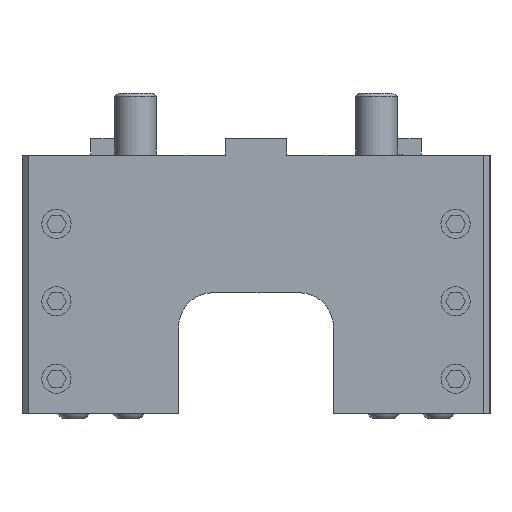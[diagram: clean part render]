
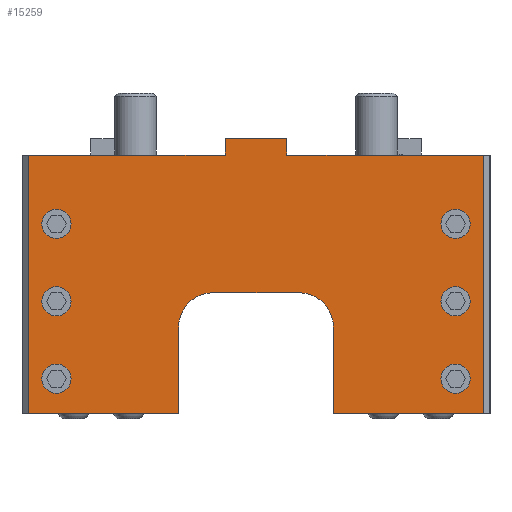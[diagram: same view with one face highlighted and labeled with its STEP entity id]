
A CAD part, front view. The second image highlights one B-rep face of the part: STEP entity #15259.
In plain terms, the highlighted planar face has unit normal (0, -1, 0).
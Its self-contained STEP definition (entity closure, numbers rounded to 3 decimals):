
#6793=CIRCLE('',#14521,4.25);
#6794=CIRCLE('',#14522,4.25);
#6795=CIRCLE('',#14523,4.25);
#6796=CIRCLE('',#14524,4.25);
#6797=CIRCLE('',#14525,4.25);
#6798=CIRCLE('',#14526,10.);
#6799=CIRCLE('',#14527,10.);
#6800=CIRCLE('',#14528,4.25);
#7272=ORIENTED_EDGE('',*,*,#9895,.F.);
#7273=ORIENTED_EDGE('',*,*,#9896,.F.);
#7274=ORIENTED_EDGE('',*,*,#9897,.F.);
#7275=ORIENTED_EDGE('',*,*,#9898,.F.);
#7276=ORIENTED_EDGE('',*,*,#9899,.F.);
#7277=ORIENTED_EDGE('',*,*,#9900,.T.);
#7278=ORIENTED_EDGE('',*,*,#9901,.F.);
#7279=ORIENTED_EDGE('',*,*,#9902,.T.);
#7280=ORIENTED_EDGE('',*,*,#9903,.F.);
#7281=ORIENTED_EDGE('',*,*,#9904,.F.);
#7282=ORIENTED_EDGE('',*,*,#9905,.F.);
#7283=ORIENTED_EDGE('',*,*,#9906,.F.);
#7284=ORIENTED_EDGE('',*,*,#9907,.F.);
#7285=ORIENTED_EDGE('',*,*,#9865,.T.);
#7286=ORIENTED_EDGE('',*,*,#9894,.T.);
#7287=ORIENTED_EDGE('',*,*,#9889,.T.);
#7288=ORIENTED_EDGE('',*,*,#9908,.T.);
#7289=ORIENTED_EDGE('',*,*,#9909,.F.);
#7290=ORIENTED_EDGE('',*,*,#9910,.F.);
#7291=ORIENTED_EDGE('',*,*,#9911,.F.);
#8396=VECTOR('',#11686,1.);
#8405=VECTOR('',#11745,1.);
#8408=VECTOR('',#11756,1.);
#8409=VECTOR('',#11769,1.);
#8410=VECTOR('',#11770,1.);
#8411=VECTOR('',#11771,1.);
#8412=VECTOR('',#11772,1.);
#8413=VECTOR('',#11775,1.);
#8414=VECTOR('',#11778,1.);
#8415=VECTOR('',#11779,1.);
#8416=VECTOR('',#11780,1.);
#8417=VECTOR('',#11781,1.);
#8878=LINE('',#13260,#8396);
#8887=LINE('',#13316,#8405);
#8890=LINE('',#13325,#8408);
#8891=LINE('',#13339,#8409);
#8892=LINE('',#13341,#8410);
#8893=LINE('',#13343,#8411);
#8894=LINE('',#13345,#8412);
#8895=LINE('',#13349,#8413);
#8896=LINE('',#13352,#8414);
#8897=LINE('',#13354,#8415);
#8898=LINE('',#13356,#8416);
#8899=LINE('',#13357,#8417);
#9344=VERTEX_POINT('',#13257);
#9345=VERTEX_POINT('',#13259);
#9366=VERTEX_POINT('',#13313);
#9367=VERTEX_POINT('',#13315);
#9370=VERTEX_POINT('',#13327);
#9371=VERTEX_POINT('',#13329);
#9372=VERTEX_POINT('',#13331);
#9373=VERTEX_POINT('',#13333);
#9374=VERTEX_POINT('',#13335);
#9375=VERTEX_POINT('',#13337);
#9376=VERTEX_POINT('',#13338);
#9377=VERTEX_POINT('',#13340);
#9378=VERTEX_POINT('',#13342);
#9379=VERTEX_POINT('',#13344);
#9380=VERTEX_POINT('',#13346);
#9381=VERTEX_POINT('',#13348);
#9382=VERTEX_POINT('',#13350);
#9383=VERTEX_POINT('',#13353);
#9384=VERTEX_POINT('',#13355);
#9385=VERTEX_POINT('',#13358);
#9865=EDGE_CURVE('',#9345,#9344,#8878,.T.);
#9889=EDGE_CURVE('',#9367,#9366,#8887,.T.);
#9894=EDGE_CURVE('',#9344,#9367,#8890,.T.);
#9895=EDGE_CURVE('',#9370,#9370,#6793,.T.);
#9896=EDGE_CURVE('',#9371,#9371,#6794,.T.);
#9897=EDGE_CURVE('',#9372,#9372,#6795,.T.);
#9898=EDGE_CURVE('',#9373,#9373,#6796,.T.);
#9899=EDGE_CURVE('',#9374,#9374,#6797,.T.);
#9900=EDGE_CURVE('',#9375,#9376,#8891,.T.);
#9901=EDGE_CURVE('',#9377,#9376,#8892,.T.);
#9902=EDGE_CURVE('',#9377,#9378,#8893,.T.);
#9903=EDGE_CURVE('',#9379,#9378,#8894,.T.);
#9904=EDGE_CURVE('',#9380,#9379,#6798,.T.);
#9905=EDGE_CURVE('',#9381,#9380,#8895,.T.);
#9906=EDGE_CURVE('',#9382,#9381,#6799,.T.);
#9907=EDGE_CURVE('',#9345,#9382,#8896,.T.);
#9908=EDGE_CURVE('',#9366,#9383,#8897,.T.);
#9909=EDGE_CURVE('',#9384,#9383,#8898,.T.);
#9910=EDGE_CURVE('',#9375,#9384,#8899,.T.);
#9911=EDGE_CURVE('',#9385,#9385,#6800,.T.);
#10484=EDGE_LOOP('',(#7272));
#10485=EDGE_LOOP('',(#7273));
#10486=EDGE_LOOP('',(#7274));
#10487=EDGE_LOOP('',(#7275));
#10488=EDGE_LOOP('',(#7276));
#10489=EDGE_LOOP('',(#7277,#7278,#7279,#7280,#7281,#7282,#7283,#7284,#7285,
#7286,#7287,#7288,#7289,#7290));
#10490=EDGE_LOOP('',(#7291));
#10986=FACE_BOUND('',#10484,.T.);
#10987=FACE_BOUND('',#10485,.T.);
#10988=FACE_BOUND('',#10486,.T.);
#10989=FACE_BOUND('',#10487,.T.);
#10990=FACE_BOUND('',#10488,.T.);
#10991=FACE_BOUND('',#10489,.T.);
#10992=FACE_BOUND('',#10490,.T.);
#11686=DIRECTION('',(43.5,0.,0.));
#11745=DIRECTION('',(-57.,0.,0.));
#11756=DIRECTION('',(0.,0.,75.));
#11757=DIRECTION('',(0.,-1.,0.));
#11758=DIRECTION('',(-1.,0.,0.));
#11759=DIRECTION('',(0.,-1.,0.));
#11760=DIRECTION('',(4.25,0.,0.));
#11761=DIRECTION('',(0.,-1.,0.));
#11762=DIRECTION('',(4.25,0.,0.));
#11763=DIRECTION('',(0.,-1.,0.));
#11764=DIRECTION('',(4.25,0.,0.));
#11765=DIRECTION('',(0.,-1.,0.));
#11766=DIRECTION('',(4.25,0.,0.));
#11767=DIRECTION('',(0.,-1.,0.));
#11768=DIRECTION('',(4.25,0.,0.));
#11769=DIRECTION('',(-57.,0.,0.));
#11770=DIRECTION('',(0.,0.,75.));
#11771=DIRECTION('',(43.5,0.,0.));
#11772=DIRECTION('',(0.,0.,-25.));
#11773=DIRECTION('',(0.,-1.,0.));
#11774=DIRECTION('',(0.,0.,10.));
#11775=DIRECTION('',(-25.,0.,0.));
#11776=DIRECTION('',(0.,-1.,0.));
#11777=DIRECTION('',(0.,0.,10.));
#11778=DIRECTION('',(0.,0.,25.));
#11779=DIRECTION('',(0.,0.,4.75));
#11780=DIRECTION('',(18.,0.,0.));
#11781=DIRECTION('',(0.,0.,4.75));
#11782=DIRECTION('',(0.,-1.,0.));
#11783=DIRECTION('',(4.25,0.,0.));
#13257=CARTESIAN_POINT('',(66.,-48.,-64.));
#13259=CARTESIAN_POINT('',(22.5,-48.,-64.));
#13260=CARTESIAN_POINT('',(22.5,-48.,-64.));
#13313=CARTESIAN_POINT('',(9.,-48.,11.));
#13315=CARTESIAN_POINT('',(66.,-48.,11.));
#13316=CARTESIAN_POINT('',(66.,-48.,11.));
#13325=CARTESIAN_POINT('',(66.,-48.,-64.));
#13326=CARTESIAN_POINT('',(58.,-48.,-36.5));
#13327=CARTESIAN_POINT('',(62.25,-48.,-31.5));
#13328=CARTESIAN_POINT('',(58.,-48.,-31.5));
#13329=CARTESIAN_POINT('',(-53.75,-48.,-9.));
#13330=CARTESIAN_POINT('',(-58.,-48.,-9.));
#13331=CARTESIAN_POINT('',(-53.75,-48.,-31.5));
#13332=CARTESIAN_POINT('',(-58.,-48.,-31.5));
#13333=CARTESIAN_POINT('',(62.25,-48.,-54.));
#13334=CARTESIAN_POINT('',(58.,-48.,-54.));
#13335=CARTESIAN_POINT('',(-53.75,-48.,-54.));
#13336=CARTESIAN_POINT('',(-58.,-48.,-54.));
#13337=CARTESIAN_POINT('',(-9.,-48.,11.));
#13338=CARTESIAN_POINT('',(-66.,-48.,11.));
#13339=CARTESIAN_POINT('',(-9.,-48.,11.));
#13340=CARTESIAN_POINT('',(-66.,-48.,-64.));
#13341=CARTESIAN_POINT('',(-66.,-48.,-64.));
#13342=CARTESIAN_POINT('',(-22.5,-48.,-64.));
#13343=CARTESIAN_POINT('',(-66.,-48.,-64.));
#13344=CARTESIAN_POINT('',(-22.5,-48.,-39.));
#13345=CARTESIAN_POINT('',(-22.5,-48.,-39.));
#13346=CARTESIAN_POINT('',(-12.5,-48.,-29.));
#13347=CARTESIAN_POINT('',(-12.5,-48.,-39.));
#13348=CARTESIAN_POINT('',(12.5,-48.,-29.));
#13349=CARTESIAN_POINT('',(12.5,-48.,-29.));
#13350=CARTESIAN_POINT('',(22.5,-48.,-39.));
#13351=CARTESIAN_POINT('',(12.5,-48.,-39.));
#13352=CARTESIAN_POINT('',(22.5,-48.,-64.));
#13353=CARTESIAN_POINT('',(9.,-48.,15.75));
#13354=CARTESIAN_POINT('',(9.,-48.,11.));
#13355=CARTESIAN_POINT('',(-9.,-48.,15.75));
#13356=CARTESIAN_POINT('',(-9.,-48.,15.75));
#13357=CARTESIAN_POINT('',(-9.,-48.,11.));
#13358=CARTESIAN_POINT('',(62.25,-48.,-9.));
#13359=CARTESIAN_POINT('',(58.,-48.,-9.));
#14520=AXIS2_PLACEMENT_3D('',#13326,#11757,#11758);
#14521=AXIS2_PLACEMENT_3D('',#13328,#11759,#11760);
#14522=AXIS2_PLACEMENT_3D('',#13330,#11761,#11762);
#14523=AXIS2_PLACEMENT_3D('',#13332,#11763,#11764);
#14524=AXIS2_PLACEMENT_3D('',#13334,#11765,#11766);
#14525=AXIS2_PLACEMENT_3D('',#13336,#11767,#11768);
#14526=AXIS2_PLACEMENT_3D('',#13347,#11773,#11774);
#14527=AXIS2_PLACEMENT_3D('',#13351,#11776,#11777);
#14528=AXIS2_PLACEMENT_3D('',#13359,#11782,#11783);
#14990=PLANE('',#14520);
#15259=ADVANCED_FACE('',(#10986,#10987,#10988,#10989,#10990,#10991,#10992),
#14990,.T.);
